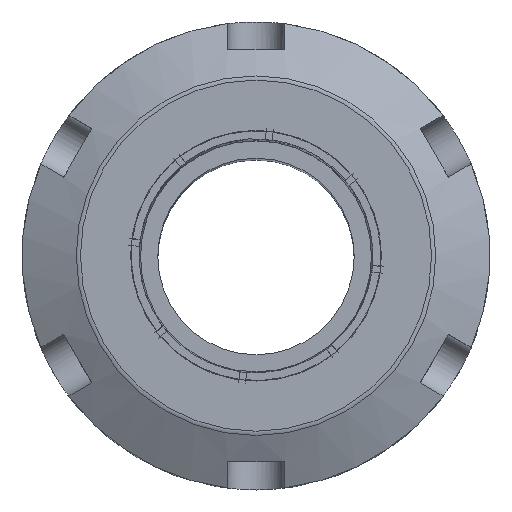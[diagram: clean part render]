
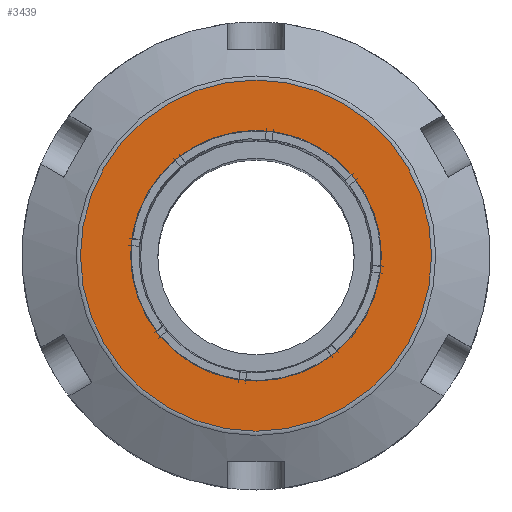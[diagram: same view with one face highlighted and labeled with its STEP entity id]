
A CAD part, top view. The second image highlights one B-rep face of the part: STEP entity #3439.
In plain terms, the highlighted planar face has unit normal (0, 0, 1) as drawn and (0, 1, 0) by its records, which use the part's own axes.
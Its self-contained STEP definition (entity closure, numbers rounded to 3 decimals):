
#159=FACE_BOUND('',#1091,.T.);
#191=PLANE('',#3798);
#896=FACE_OUTER_BOUND('',#1090,.T.);
#1090=EDGE_LOOP('',(#2586));
#1091=EDGE_LOOP('',(#2587));
#1277=CIRCLE('',#3797,18.764);
#1278=CIRCLE('',#3799,13.4);
#1507=VERTEX_POINT('',#5563);
#1508=VERTEX_POINT('',#5567);
#1911=EDGE_CURVE('',#1507,#1507,#1277,.T.);
#1912=EDGE_CURVE('',#1508,#1508,#1278,.T.);
#2586=ORIENTED_EDGE('',*,*,#1911,.F.);
#2587=ORIENTED_EDGE('',*,*,#1912,.T.);
#3439=ADVANCED_FACE('',(#896,#159),#191,.T.);
#3797=AXIS2_PLACEMENT_3D('',#5565,#4337,#4338);
#3798=AXIS2_PLACEMENT_3D('',#5566,#4339,#4340);
#3799=AXIS2_PLACEMENT_3D('',#5568,#4341,#4342);
#4337=DIRECTION('center_axis',(0.,-1.,0.));
#4338=DIRECTION('ref_axis',(-1.,0.,0.));
#4339=DIRECTION('center_axis',(0.,1.,0.));
#4340=DIRECTION('ref_axis',(0.,0.,1.));
#4341=DIRECTION('center_axis',(0.,-1.,0.));
#4342=DIRECTION('ref_axis',(1.,0.,0.));
#5563=CARTESIAN_POINT('',(0.,24.,18.764));
#5565=CARTESIAN_POINT('Origin',(0.,24.,0.));
#5566=CARTESIAN_POINT('Origin',(19.,24.,0.));
#5567=CARTESIAN_POINT('',(-13.4,24.,0.));
#5568=CARTESIAN_POINT('Origin',(0.,24.,0.));
